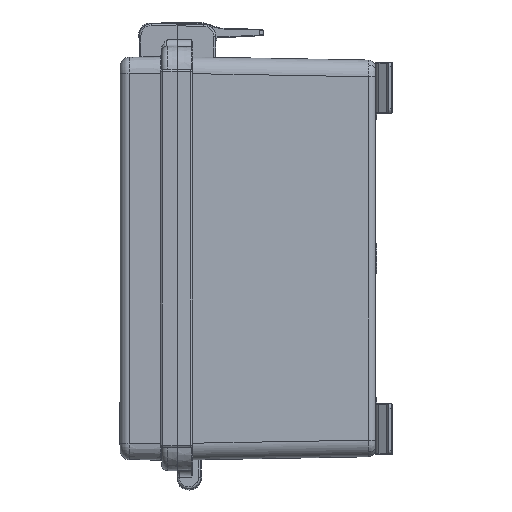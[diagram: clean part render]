
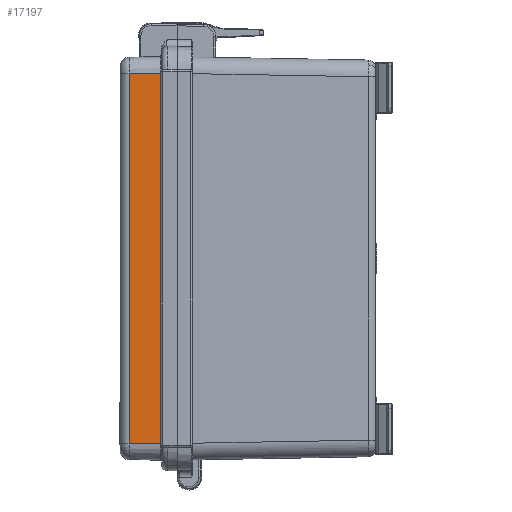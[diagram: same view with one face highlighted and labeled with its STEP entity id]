
A CAD part, left-side view. The second image highlights one B-rep face of the part: STEP entity #17197.
In plain terms, the highlighted planar face has unit normal (-1, 0.018, 0) as drawn and (1, -0.017, 0) by its records, which use the part's own axes.
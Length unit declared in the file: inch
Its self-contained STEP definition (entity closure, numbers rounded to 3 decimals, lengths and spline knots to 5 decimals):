
#2162 = EDGE_CURVE ( 'NONE', #48254, #88593, #26102, .T. ) ;
#2638 = VERTEX_POINT ( 'NONE', #34536 ) ;
#8496 = CARTESIAN_POINT ( 'NONE',  ( 2.83234, -0.67428, 2.60289 ) ) ;
#11538 = ORIENTED_EDGE ( 'NONE', *, *, #39248, .F. ) ;
#15673 = VECTOR ( 'NONE', #90710, 39.37008 ) ;
#17197 = ADVANCED_FACE ( 'NONE', ( #91878 ), #71463, .T. ) ;
#17485 = DIRECTION ( 'NONE',  ( 0., 0., -1. ) ) ;
#22973 = VECTOR ( 'NONE', #57399, 39.37008 ) ;
#25922 = DIRECTION ( 'NONE',  ( 0.017, 1., 0. ) ) ;
#26102 = LINE ( 'NONE', #69752, #53287 ) ;
#32801 = EDGE_CURVE ( 'NONE', #43792, #2638, #53556, .T. ) ;
#34536 = CARTESIAN_POINT ( 'NONE',  ( 2.83234, -0.67428, -2.60289 ) ) ;
#37801 = CARTESIAN_POINT ( 'NONE',  ( 2.84014, -0.22767, 2.60289 ) ) ;
#39248 = EDGE_CURVE ( 'NONE', #43792, #88593, #68910, .T. ) ;
#39939 = DIRECTION ( 'NONE',  ( 0., 0., 1. ) ) ;
#42376 = CARTESIAN_POINT ( 'NONE',  ( 2.84014, -0.22767, -2.60289 ) ) ;
#43792 = VERTEX_POINT ( 'NONE', #76632 ) ;
#48254 = VERTEX_POINT ( 'NONE', #42376 ) ;
#49880 = VECTOR ( 'NONE', #17485, 39.37008 ) ;
#52326 = EDGE_CURVE ( 'NONE', #2638, #48254, #64946, .T. ) ;
#53287 = VECTOR ( 'NONE', #39939, 39.37008 ) ;
#53556 = LINE ( 'NONE', #8496, #49880 ) ;
#56307 = ORIENTED_EDGE ( 'NONE', *, *, #2162, .T. ) ;
#57399 = DIRECTION ( 'NONE',  ( 0.017, 1., 0. ) ) ;
#61798 = CARTESIAN_POINT ( 'NONE',  ( 2.84411, 0., 2.60289 ) ) ;
#64946 = LINE ( 'NONE', #86775, #22973 ) ;
#68910 = LINE ( 'NONE', #61798, #15673 ) ;
#69752 = CARTESIAN_POINT ( 'NONE',  ( 2.84014, -0.22767, 2.60289 ) ) ;
#71002 = CARTESIAN_POINT ( 'NONE',  ( 2.84411, 0., 2.60289 ) ) ;
#71204 = EDGE_LOOP ( 'NONE', ( #87189, #56307, #11538, #76843 ) ) ;
#71463 = PLANE ( 'NONE',  #82329 ) ;
#76632 = CARTESIAN_POINT ( 'NONE',  ( 2.83234, -0.67428, 2.60289 ) ) ;
#76843 = ORIENTED_EDGE ( 'NONE', *, *, #32801, .T. ) ;
#82329 = AXIS2_PLACEMENT_3D ( 'NONE', #71002, #85698, #25922 ) ;
#85698 = DIRECTION ( 'NONE',  ( 1., -0.017, 0. ) ) ;
#86775 = CARTESIAN_POINT ( 'NONE',  ( 2.84411, 0., -2.60289 ) ) ;
#87189 = ORIENTED_EDGE ( 'NONE', *, *, #52326, .T. ) ;
#88593 = VERTEX_POINT ( 'NONE', #37801 ) ;
#90710 = DIRECTION ( 'NONE',  ( 0.017, 1., 0. ) ) ;
#91878 = FACE_OUTER_BOUND ( 'NONE', #71204, .T. ) ;
